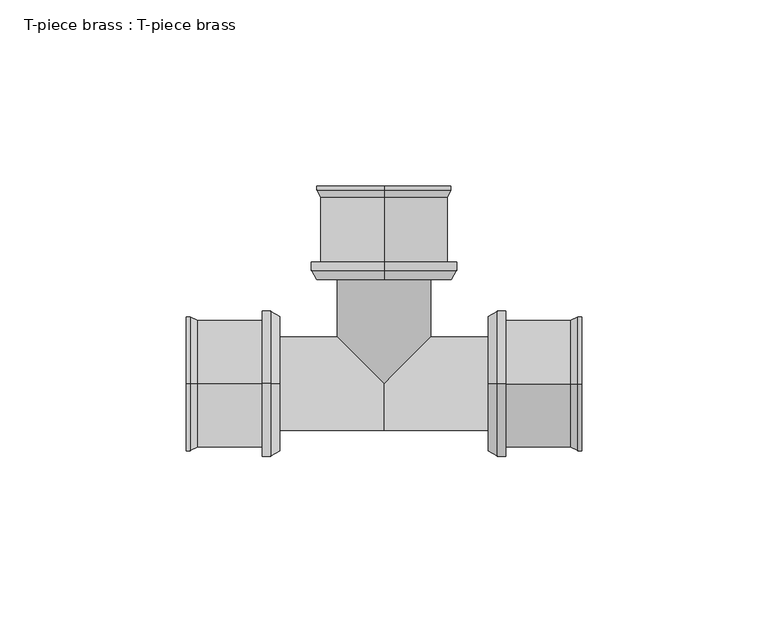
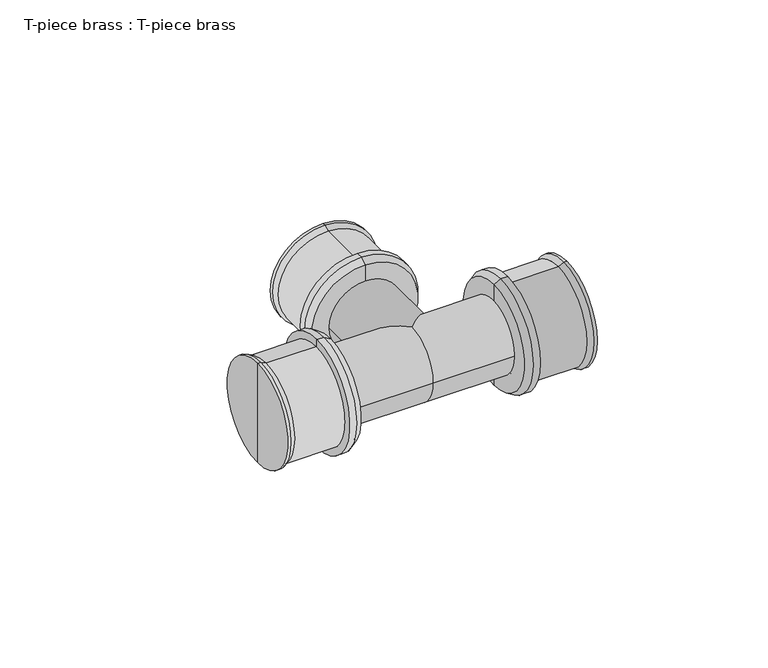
"""IFC4 building model written with IfcOpenShell, lengths in millimetres: pipe fitting geometry, T-piece brass : T-piece brass."""

from ifc_helpers import new_model, si_unit, frame, origin, place, context, project, spatial, polyline, circle_curve, ellipse_curve, source, transform, mapped, element, save
from ifc_brep_helpers import plane_surface, cylinder_surface, revolved_surface, advanced_brep


def t_piece_brass_t_piece_brass_c7ea5ea6(model_context):
    return source(origin(), model_context, "Body", "AdvancedBrep", [
        advanced_brep(
        [(28.0, 0.0, 0.0), (28.0, 0.0, 18.1432269), (28.0, 0.0, -18.1432269), (32.7, 0.0, -19.5), (32.7, 0.0, 19.5), (32.7, 0.0, 0.0), (30.35, 0.0, -19.5), (30.35, 0.0, 19.5)],
        [
            (0, 1),
            (1, 2, circle_curve(frame((28.0, 0.0, 0.0), z_axis=(-1.0, 0.0, 0.0), x_axis=(0.0, 0.0, 1.0)), 18.1432269)),
            (2, 0),
            (2, 1, circle_curve(frame((28.0, 0.0, 0.0), z_axis=(-1.0, 0.0, 0.0), x_axis=(0.0, 0.0, 1.0)), 18.1432269)),
            (3, 4, circle_curve(frame((32.7, 0.0, 0.0), z_axis=(1.0, 0.0, 0.0), x_axis=(0.0, 0.0, 1.0)), 19.5)),
            (4, 5),
            (5, 3),
            (4, 3, circle_curve(frame((32.7, 0.0, 0.0), z_axis=(1.0, 0.0, 0.0), x_axis=(0.0, 0.0, 1.0)), 19.5)),
            (6, 7, circle_curve(frame((30.35, 0.0, 0.0), z_axis=(1.0, 0.0, 0.0), x_axis=(0.0, 0.0, 1.0)), 19.5)),
            (7, 4),
            (3, 6),
            (7, 6, circle_curve(frame((30.35, 0.0, 0.0), z_axis=(1.0, 0.0, 0.0), x_axis=(0.0, 0.0, 1.0)), 19.5)),
            (1, 7),
            (6, 2),
        ],
        [
            plane_surface(frame((28.0, 0.0, 0.0), z_axis=(-1.0, 0.0, 0.0), x_axis=(0.0, 0.0, 1.0))),
            plane_surface(frame((32.7, 0.0, 0.0), z_axis=(1.0, 0.0, 0.0), x_axis=(0.0, 0.0, 1.0))),
            cylinder_surface(frame((29.0, 0.0, 0.0), z_axis=(-1.0, 0.0, 0.0), x_axis=(0.0, 0.0, 1.0)), 19.5),
            revolved_surface(polyline([(30.35, 0.0, 19.5), (28.0, 0.0, 18.1432269)]), (29.0, 0.0, 0.0), (-1.0, 0.0, 0.0)),
        ],
        [
            (0, [[1, 2, 3]]),
            (0, [[-3, 4, -1]]),
            (1, [[5, 6, 7]]),
            (1, [[8, -7, -6]]),
            (2, [[9, 10, -5, 11]]),
            (2, [[12, -11, -8, -10]]),
            (3, [[-2, 13, -9, 14]]),
            (3, [[-4, -14, -12, -13]]),
        ],
    ),
        advanced_brep(
        [(32.7, 0.0, -17.0), (32.7, 0.0, 17.0), (50.0, 0.0, 17.0), (50.0, 0.0, -17.0), (53.0, 0.0, -18.0), (53.0, 0.0, 18.0), (53.0, 0.0, 0.0), (32.7, 0.0, 0.0), (52.0, 0.0, -18.0), (52.0, 0.0, 18.0)],
        [
            (0, 1, circle_curve(frame((32.7, 0.0, 0.0), z_axis=(1.0, 0.0, 0.0), x_axis=(0.0, 0.0, 1.0)), 17.0)),
            (1, 2),
            (2, 3, circle_curve(frame((50.0, 0.0, 0.0), z_axis=(-1.0, 0.0, 0.0), x_axis=(0.0, 0.0, 1.0)), 17.0)),
            (3, 0),
            (1, 0, circle_curve(frame((32.7, 0.0, 0.0), z_axis=(1.0, 0.0, 0.0), x_axis=(0.0, 0.0, 1.0)), 17.0)),
            (3, 2, circle_curve(frame((50.0, 0.0, 0.0), z_axis=(-1.0, 0.0, 0.0), x_axis=(0.0, 0.0, 1.0)), 17.0)),
            (4, 5, circle_curve(frame((53.0, 0.0, 0.0), z_axis=(1.0, 0.0, 0.0), x_axis=(0.0, 0.0, 1.0)), 18.0)),
            (5, 6),
            (6, 4),
            (5, 4, circle_curve(frame((53.0, 0.0, 0.0), z_axis=(1.0, 0.0, 0.0), x_axis=(0.0, 0.0, 1.0)), 18.0)),
            (7, 1),
            (0, 7),
            (8, 9, circle_curve(frame((52.0, 0.0, 0.0), z_axis=(1.0, 0.0, 0.0), x_axis=(0.0, 0.0, 1.0)), 18.0)),
            (9, 5),
            (4, 8),
            (9, 8, circle_curve(frame((52.0, 0.0, 0.0), z_axis=(1.0, 0.0, 0.0), x_axis=(0.0, 0.0, 1.0)), 18.0)),
            (2, 9),
            (8, 3),
        ],
        [
            cylinder_surface(frame((-1882.8038476, 0.0, 0.0), z_axis=(-1.0, 0.0, 0.0), x_axis=(0.0, 0.0, 1.0)), 17.0),
            plane_surface(frame((53.0, 0.0, 0.0), z_axis=(1.0, 0.0, 0.0), x_axis=(0.0, 0.0, 1.0))),
            plane_surface(frame((32.7, 0.0, 0.0), z_axis=(-1.0, 0.0, 0.0), x_axis=(0.0, 0.0, 1.0))),
            cylinder_surface(frame((-1882.8038476, 0.0, 0.0), z_axis=(-1.0, 0.0, 0.0), x_axis=(0.0, 0.0, 1.0)), 18.0),
            revolved_surface(polyline([(52.0, 0.0, 18.0), (50.0, 0.0, 17.0)]), (-1882.8038476, 0.0, 0.0), (-1.0, 0.0, 0.0)),
        ],
        [
            (0, [[1, 2, 3, 4]]),
            (0, [[5, -4, 6, -2]]),
            (1, [[7, 8, 9]]),
            (1, [[10, -9, -8]]),
            (2, [[11, -1, 12]]),
            (2, [[-12, -5, -11]]),
            (3, [[13, 14, -7, 15]]),
            (3, [[16, -15, -10, -14]]),
            (4, [[-3, 17, -13, 18]]),
            (4, [[-6, -18, -16, -17]]),
        ],
    ),
        advanced_brep(
        [(-28.0, 0.0, 0.0), (-28.0, 0.0, 18.1432269), (-28.0, 0.0, -18.1432269), (-32.7, 0.0, -19.5), (-32.7, 0.0, 19.5), (-32.7, 0.0, 0.0), (-30.35, 0.0, -19.5), (-30.35, 0.0, 19.5)],
        [
            (0, 1),
            (1, 2, circle_curve(frame((-28.0, 0.0, 0.0), z_axis=(1.0, 0.0, 0.0), x_axis=(0.0, 0.0, 1.0)), 18.1432269)),
            (2, 0),
            (2, 1, circle_curve(frame((-28.0, 0.0, 0.0), z_axis=(1.0, 0.0, 0.0), x_axis=(0.0, 0.0, 1.0)), 18.1432269)),
            (3, 4, circle_curve(frame((-32.7, 0.0, 0.0), z_axis=(-1.0, 0.0, 0.0), x_axis=(0.0, 0.0, 1.0)), 19.5)),
            (4, 5),
            (5, 3),
            (4, 3, circle_curve(frame((-32.7, 0.0, 0.0), z_axis=(-1.0, 0.0, 0.0), x_axis=(0.0, 0.0, 1.0)), 19.5)),
            (6, 7, circle_curve(frame((-30.35, 0.0, 0.0), z_axis=(-1.0, 0.0, 0.0), x_axis=(0.0, 0.0, 1.0)), 19.5)),
            (7, 4),
            (3, 6),
            (7, 6, circle_curve(frame((-30.35, 0.0, 0.0), z_axis=(-1.0, 0.0, 0.0), x_axis=(0.0, 0.0, 1.0)), 19.5)),
            (1, 7),
            (6, 2),
        ],
        [
            plane_surface(frame((-28.0, 0.0, 0.0), z_axis=(1.0, 0.0, 0.0), x_axis=(0.0, 0.0, 1.0))),
            plane_surface(frame((-32.7, 0.0, 0.0), z_axis=(-1.0, 0.0, 0.0), x_axis=(0.0, 0.0, 1.0))),
            cylinder_surface(frame((-29.0, 0.0, 0.0), z_axis=(1.0, 0.0, 0.0), x_axis=(0.0, 0.0, 1.0)), 19.5),
            revolved_surface(polyline([(-30.35, 0.0, 19.5), (-28.0, 0.0, 18.1432269)]), (-29.0, 0.0, 0.0), (1.0, 0.0, 0.0)),
        ],
        [
            (0, [[1, 2, 3]]),
            (0, [[-3, 4, -1]]),
            (1, [[5, 6, 7]]),
            (1, [[8, -7, -6]]),
            (2, [[9, 10, -5, 11]]),
            (2, [[12, -11, -8, -10]]),
            (3, [[-2, 13, -9, 14]]),
            (3, [[-4, -14, -12, -13]]),
        ],
    ),
        advanced_brep(
        [(-32.7, 0.0, -17.0), (-32.7, 0.0, 17.0), (-50.0, 0.0, 17.0), (-50.0, 0.0, -17.0), (-53.0, 0.0, -18.0), (-53.0, 0.0, 18.0), (-53.0, 0.0, 0.0), (-32.7, 0.0, 0.0), (-52.0, 0.0, -18.0), (-52.0, 0.0, 18.0)],
        [
            (0, 1, circle_curve(frame((-32.7, 0.0, 0.0), z_axis=(-1.0, 0.0, 0.0), x_axis=(0.0, 0.0, 1.0)), 17.0)),
            (1, 2),
            (2, 3, circle_curve(frame((-50.0, 0.0, 0.0), z_axis=(1.0, 0.0, 0.0), x_axis=(0.0, 0.0, 1.0)), 17.0)),
            (3, 0),
            (1, 0, circle_curve(frame((-32.7, 0.0, 0.0), z_axis=(-1.0, 0.0, 0.0), x_axis=(0.0, 0.0, 1.0)), 17.0)),
            (3, 2, circle_curve(frame((-50.0, 0.0, 0.0), z_axis=(1.0, 0.0, 0.0), x_axis=(0.0, 0.0, 1.0)), 17.0)),
            (4, 5, circle_curve(frame((-53.0, 0.0, 0.0), z_axis=(-1.0, 0.0, 0.0), x_axis=(0.0, 0.0, 1.0)), 18.0)),
            (5, 6),
            (6, 4),
            (5, 4, circle_curve(frame((-53.0, 0.0, 0.0), z_axis=(-1.0, 0.0, 0.0), x_axis=(0.0, 0.0, 1.0)), 18.0)),
            (7, 1),
            (0, 7),
            (8, 9, circle_curve(frame((-52.0, 0.0, 0.0), z_axis=(-1.0, 0.0, 0.0), x_axis=(0.0, 0.0, 1.0)), 18.0)),
            (9, 5),
            (4, 8),
            (9, 8, circle_curve(frame((-52.0, 0.0, 0.0), z_axis=(-1.0, 0.0, 0.0), x_axis=(0.0, 0.0, 1.0)), 18.0)),
            (2, 9),
            (8, 3),
        ],
        [
            cylinder_surface(frame((1882.8038476, 0.0, 0.0), z_axis=(1.0, 0.0, 0.0), x_axis=(0.0, 0.0, 1.0)), 17.0),
            plane_surface(frame((-53.0, 0.0, 0.0), z_axis=(-1.0, 0.0, 0.0), x_axis=(0.0, 0.0, 1.0))),
            plane_surface(frame((-32.7, 0.0, 0.0), z_axis=(1.0, 0.0, 0.0), x_axis=(0.0, 0.0, 1.0))),
            cylinder_surface(frame((1882.8038476, 0.0, 0.0), z_axis=(1.0, 0.0, 0.0), x_axis=(0.0, 0.0, 1.0)), 18.0),
            revolved_surface(polyline([(-52.0, 0.0, 18.0), (-50.0, 0.0, 17.0)]), (1882.8038476, 0.0, 0.0), (1.0, 0.0, 0.0)),
        ],
        [
            (0, [[1, 2, 3, 4]]),
            (0, [[5, -4, 6, -2]]),
            (1, [[7, 8, 9]]),
            (1, [[10, -9, -8]]),
            (2, [[11, -1, 12]]),
            (2, [[-12, -5, -11]]),
            (3, [[13, 14, -7, 15]]),
            (3, [[16, -15, -10, -14]]),
            (4, [[-3, 17, -13, 18]]),
            (4, [[-6, -18, -16, -17]]),
        ],
    ),
        advanced_brep(
        [(0.0, 28.0, 0.0), (0.0, 28.0, 18.1432269), (0.0, 28.0, -18.1432269), (0.0, 32.7, -19.5), (0.0, 32.7, 19.5), (0.0, 32.7, 0.0), (0.0, 30.35, -19.5), (0.0, 30.35, 19.5)],
        [
            (0, 1),
            (1, 2, circle_curve(frame((0.0, 28.0, 0.0), z_axis=(0.0, -1.0, 0.0), x_axis=(0.0, 0.0, 1.0)), 18.1432269)),
            (2, 0),
            (2, 1, circle_curve(frame((0.0, 28.0, 0.0), z_axis=(0.0, -1.0, 0.0), x_axis=(0.0, 0.0, 1.0)), 18.1432269)),
            (3, 4, circle_curve(frame((0.0, 32.7, 0.0), z_axis=(0.0, 1.0, 0.0), x_axis=(0.0, 0.0, 1.0)), 19.5)),
            (4, 5),
            (5, 3),
            (4, 3, circle_curve(frame((0.0, 32.7, 0.0), z_axis=(0.0, 1.0, 0.0), x_axis=(0.0, 0.0, 1.0)), 19.5)),
            (6, 7, circle_curve(frame((0.0, 30.35, 0.0), z_axis=(0.0, 1.0, 0.0), x_axis=(0.0, 0.0, 1.0)), 19.5)),
            (7, 4),
            (3, 6),
            (7, 6, circle_curve(frame((0.0, 30.35, 0.0), z_axis=(0.0, 1.0, 0.0), x_axis=(0.0, 0.0, 1.0)), 19.5)),
            (1, 7),
            (6, 2),
        ],
        [
            plane_surface(frame((0.0, 28.0, 0.0), z_axis=(0.0, -1.0, 0.0), x_axis=(0.0, 0.0, 1.0))),
            plane_surface(frame((0.0, 32.7, 0.0), z_axis=(0.0, 1.0, 0.0), x_axis=(0.0, 0.0, 1.0))),
            cylinder_surface(frame((0.0, 29.0, 0.0), z_axis=(0.0, -1.0, 0.0), x_axis=(0.0, 0.0, 1.0)), 19.5),
            revolved_surface(polyline([(0.0, 30.35, 19.5), (0.0, 28.0, 18.1432269)]), (0.0, 29.0, 0.0), (0.0, -1.0, 0.0)),
        ],
        [
            (0, [[1, 2, 3]]),
            (0, [[-3, 4, -1]]),
            (1, [[5, 6, 7]]),
            (1, [[8, -7, -6]]),
            (2, [[9, 10, -5, 11]]),
            (2, [[12, -11, -8, -10]]),
            (3, [[-2, 13, -9, 14]]),
            (3, [[-4, -14, -12, -13]]),
        ],
    ),
        advanced_brep(
        [(0.0, 32.7, -17.0), (0.0, 32.7, 17.0), (0.0, 50.0, 17.0), (0.0, 50.0, -17.0), (0.0, 53.0, -18.0), (0.0, 53.0, 18.0), (0.0, 53.0, 0.0), (0.0, 32.7, 0.0), (0.0, 52.0, -18.0), (0.0, 52.0, 18.0)],
        [
            (0, 1, circle_curve(frame((0.0, 32.7, 0.0), z_axis=(0.0, 1.0, 0.0), x_axis=(0.0, 0.0, 1.0)), 17.0)),
            (1, 2),
            (2, 3, circle_curve(frame((0.0, 50.0, 0.0), z_axis=(0.0, -1.0, 0.0), x_axis=(0.0, 0.0, 1.0)), 17.0)),
            (3, 0),
            (1, 0, circle_curve(frame((0.0, 32.7, 0.0), z_axis=(0.0, 1.0, 0.0), x_axis=(0.0, 0.0, 1.0)), 17.0)),
            (3, 2, circle_curve(frame((0.0, 50.0, 0.0), z_axis=(0.0, -1.0, 0.0), x_axis=(0.0, 0.0, 1.0)), 17.0)),
            (4, 5, circle_curve(frame((0.0, 53.0, 0.0), z_axis=(0.0, 1.0, 0.0), x_axis=(0.0, 0.0, 1.0)), 18.0)),
            (5, 6),
            (6, 4),
            (5, 4, circle_curve(frame((0.0, 53.0, 0.0), z_axis=(0.0, 1.0, 0.0), x_axis=(0.0, 0.0, 1.0)), 18.0)),
            (7, 1),
            (0, 7),
            (8, 9, circle_curve(frame((0.0, 52.0, 0.0), z_axis=(0.0, 1.0, 0.0), x_axis=(0.0, 0.0, 1.0)), 18.0)),
            (9, 5),
            (4, 8),
            (9, 8, circle_curve(frame((0.0, 52.0, 0.0), z_axis=(0.0, 1.0, 0.0), x_axis=(0.0, 0.0, 1.0)), 18.0)),
            (2, 9),
            (8, 3),
        ],
        [
            cylinder_surface(frame((0.0, -1882.8038476, 0.0), z_axis=(0.0, -1.0, 0.0), x_axis=(0.0, 0.0, 1.0)), 17.0),
            plane_surface(frame((0.0, 53.0, 0.0), z_axis=(0.0, 1.0, 0.0), x_axis=(0.0, 0.0, 1.0))),
            plane_surface(frame((0.0, 32.7, 0.0), z_axis=(0.0, -1.0, 0.0), x_axis=(0.0, 0.0, 1.0))),
            cylinder_surface(frame((0.0, -1882.8038476, 0.0), z_axis=(0.0, -1.0, 0.0), x_axis=(0.0, 0.0, 1.0)), 18.0),
            revolved_surface(polyline([(0.0, 52.0, 18.0), (0.0, 50.0, 17.0)]), (0.0, -1882.8038476, 0.0), (0.0, -1.0, 0.0)),
        ],
        [
            (0, [[1, 2, 3, 4]]),
            (0, [[5, -4, 6, -2]]),
            (1, [[7, 8, 9]]),
            (1, [[10, -9, -8]]),
            (2, [[11, -1, 12]]),
            (2, [[-12, -5, -11]]),
            (3, [[13, 14, -7, 15]]),
            (3, [[16, -15, -10, -14]]),
            (4, [[-3, 17, -13, 18]]),
            (4, [[-6, -18, -16, -17]]),
        ],
    ),
        advanced_brep(
        [(29.0, 12.6, 0.0), (29.0, -12.6, 0.0), (12.6, 12.6, 0.0), (0.0, 0.0, 12.6), (0.0, -12.6, 0.0), (0.0, 0.0, -12.6), (-29.0, 12.6, 0.0), (-29.0, -12.6, 0.0), (-12.6, 12.6, 0.0), (-12.6, 29.0, 0.0), (12.6, 29.0, 0.0)],
        [
            (0, 1, circle_curve(frame((29.0, 0.0, 0.0), z_axis=(1.0, 0.0, 0.0), x_axis=(0.0, -1.0, 0.0)), 12.6)),
            (1, 0, circle_curve(frame((29.0, 0.0, 0.0), z_axis=(1.0, 0.0, 0.0), x_axis=(0.0, -1.0, 0.0)), 12.6)),
            (0, 2),
            (2, 3, ellipse_curve(frame((0.0, 0.0, 0.0), z_axis=(0.7071067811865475, -0.7071067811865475, 0.0), x_axis=(0.7071067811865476, 0.7071067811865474, 0.0)), 17.8190909, 12.6)),
            (3, 4, circle_curve(frame((0.0, 0.0, 0.0), z_axis=(1.0, 0.0, 0.0), x_axis=(0.0, -1.0, 0.0)), 12.6)),
            (4, 1),
            (4, 5, circle_curve(frame((0.0, 0.0, 0.0), z_axis=(1.0, 0.0, 0.0), x_axis=(0.0, -1.0, 0.0)), 12.6)),
            (5, 2, ellipse_curve(frame((0.0, 0.0, 0.0), z_axis=(0.7071067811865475, -0.7071067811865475, 0.0), x_axis=(0.7071067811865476, 0.7071067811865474, 0.0)), 17.8190909, 12.6)),
            (6, 7, circle_curve(frame((-29.0, 0.0, 0.0), z_axis=(-1.0, 0.0, 0.0), x_axis=(0.0, -1.0, 0.0)), 12.6)),
            (7, 6, circle_curve(frame((-29.0, 0.0, 0.0), z_axis=(-1.0, 0.0, 0.0), x_axis=(0.0, -1.0, 0.0)), 12.6)),
            (7, 4),
            (3, 8, ellipse_curve(frame((0.0, 0.0, 0.0), z_axis=(-0.7071067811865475, -0.7071067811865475, 0.0), x_axis=(0.7071067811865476, -0.7071067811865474, 0.0)), 17.8190909, 12.6)),
            (8, 6),
            (8, 5, ellipse_curve(frame((0.0, 0.0, 0.0), z_axis=(-0.7071067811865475, -0.7071067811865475, 0.0), x_axis=(0.7071067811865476, -0.7071067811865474, 0.0)), 17.8190909, 12.6)),
            (9, 10, circle_curve(frame((0.0, 29.0, 0.0), z_axis=(0.0, 1.0, 0.0), x_axis=(1.0, 0.0, 0.0)), 12.6)),
            (10, 9, circle_curve(frame((0.0, 29.0, 0.0), z_axis=(0.0, 1.0, 0.0), x_axis=(1.0, 0.0, 0.0)), 12.6)),
            (9, 8),
            (2, 10),
        ],
        [
            plane_surface(frame((29.0, 0.0, 0.0), z_axis=(1.0, 0.0, 0.0), x_axis=(0.0, 0.0, 1.0))),
            cylinder_surface(frame((29.0, 0.0, 0.0), z_axis=(1.0, 0.0, 0.0), x_axis=(0.0, -1.0, 0.0)), 12.6),
            plane_surface(frame((-29.0, 0.0, 0.0), z_axis=(-1.0, 0.0, 0.0), x_axis=(0.0, 0.0, 1.0))),
            cylinder_surface(frame((0.0, 0.0, 0.0), z_axis=(1.0, 0.0, 0.0), x_axis=(0.0, -1.0, 0.0)), 12.6),
            plane_surface(frame((0.0, 29.0, 0.0), z_axis=(0.0, 1.0, 0.0), x_axis=(0.0, 0.0, 1.0))),
            cylinder_surface(frame((0.0, 29.0, 0.0), z_axis=(0.0, 1.0, 0.0), x_axis=(1.0, 0.0, 0.0)), 12.6),
        ],
        [
            (0, [[1, 2]]),
            (1, [[-1, 3, 4, 5, 6]]),
            (1, [[-2, -6, 7, 8, -3]]),
            (2, [[9, 10]]),
            (3, [[-10, 11, -5, 12, 13]]),
            (3, [[-9, -13, 14, -7, -11]]),
            (4, [[15, 16]]),
            (5, [[-15, 17, -12, -4, 18]]),
            (5, [[-16, -18, -8, -14, -17]]),
        ],
    ),
    ])


if __name__ == "__main__":
    model = new_model("IFC4")
    model_context = context("Model", 3, world=origin())
    ifc_project = project(units=[si_unit("LENGTHUNIT", "METRE", prefix="MILLI")], contexts=[model_context])
    site = spatial("IfcSite", under=ifc_project)
    building = spatial("IfcBuilding", under=site)
    placement = place(None, origin())
    t_piece_brass_t_piece_brass_shape = t_piece_brass_t_piece_brass_c7ea5ea6(model_context)
    element("IfcPipeFitting", 1, ObjectType="T-piece brass : T-piece brass", at=placement, inside=building, context=model_context, shape_type="MappedRepresentation", body=[
        mapped(t_piece_brass_t_piece_brass_shape, transform((0.0, 0.0, 0.0), x_axis=(1.0, 0.0, 0.0), y_axis=(0.0, 1.0, 0.0), z_axis=(0.0, 0.0, 1.0))),
    ])
    save(model, "model.ifc")
